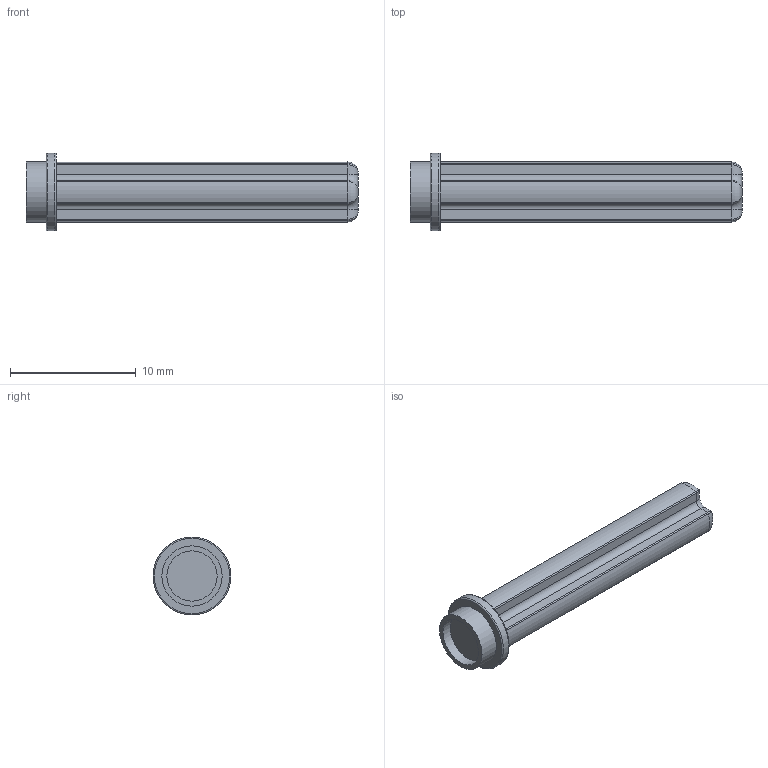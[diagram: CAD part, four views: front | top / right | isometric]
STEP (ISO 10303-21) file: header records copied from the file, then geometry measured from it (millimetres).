
FILE_DESCRIPTION(/* description */ ('Unknown'),/* implementation_level */ '2;1');
FILE_NAME(/* name */ 'Sand_6031821_JCA',/* time_stamp */ '2025-07-22T00:05:27+02:00',/* author */ ('Unknown'),/* organization */ ('Unknown'),/* preprocessor_version */ 'ST-DEVELOPER v19.4',/* originating_system */ 'Solid Edge',/* authorisation */ 'Unknown');
FILE_SCHEMA (('AUTOMOTIVE_DESIGN {1 0 10303 214 3 1 1}'));
Length unit declared in the file: millimetre
Products named in the file (1): Sand_6031821_JCA
Bounding box: 26.4 x 6.2 x 6.2 mm (x, y, z)
Volume: 372.8 mm3; surface area: 509.9 mm2
Topology: 1 solids, 1 shells, 58 faces, 134 edges, 73 vertices
Faces by surface type: cylinder 27, plane 13, torus 10, bspline 8
Full cylindrical faces by diameter (mm): 4 x1, 4.8 x1, 6.2 x1
Entity records: 1670 total; most frequent: CARTESIAN_POINT 427, DIRECTION 262, ORIENTED_EDGE 240, EDGE_CURVE 120, AXIS2_PLACEMENT_3D 107, VERTEX_POINT 72, EDGE_LOOP 66, FACE_BOUND 66
